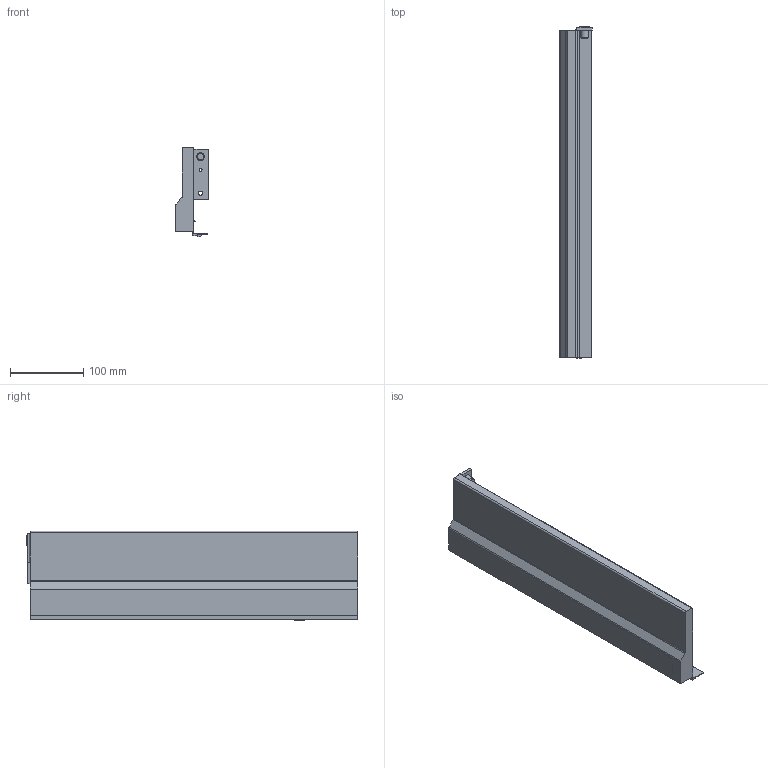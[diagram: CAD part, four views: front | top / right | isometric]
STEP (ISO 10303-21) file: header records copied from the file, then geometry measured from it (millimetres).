
FILE_DESCRIPTION (( 'STEP AP214' ), '1' );
FILE_NAME ('_IMOS_NOVA-Pro_Dekor-H122_CL_NL450_LI.step', '2010-07-06T09:36:15', ( 'grass' ), ( '' ), 'SwSTEP 2.0', 'SolidWorks 2009', '' );
FILE_SCHEMA (( 'AUTOMOTIVE_DESIGN' ));
Length unit declared in the file: millimetre
Products named in the file (1): _IMOS_NOVA-Pro_Dekor-H122_CL_NL450_LI
Bounding box: 44.3 x 452.7 x 122.49 mm (x, y, z)
Volume: 615350.2 mm3; surface area: 186181.9 mm2
Topology: 1 solids, 1 shells, 73 faces, 194 edges, 128 vertices
Faces by surface type: plane 42, cylinder 26, cone 4, bspline 1
Entity records: 2325 total; most frequent: CARTESIAN_POINT 417, DIRECTION 394, ORIENTED_EDGE 388, EDGE_CURVE 194, LINE 136, VECTOR 136, AXIS2_PLACEMENT_3D 129, VERTEX_POINT 128
